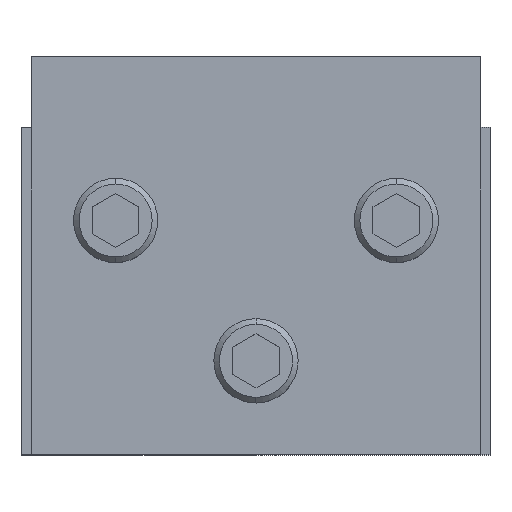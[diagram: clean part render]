
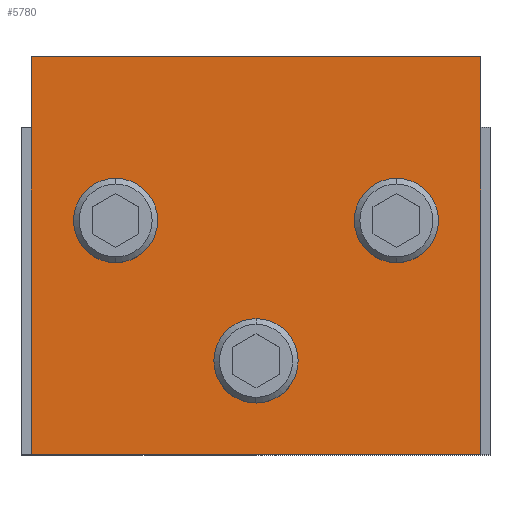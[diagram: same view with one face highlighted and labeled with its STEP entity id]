
A CAD part, top view. The second image highlights one B-rep face of the part: STEP entity #5780.
In plain terms, the highlighted planar face has unit normal (0, 0, 1).
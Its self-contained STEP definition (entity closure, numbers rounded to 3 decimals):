
#5555=VERTEX_POINT(' ',#5556);
#5556=CARTESIAN_POINT('',(48.,85.,90.));
#5557=VERTEX_POINT(' ',#5558);
#5558=CARTESIAN_POINT('',(-48.,85.,90.));
#5559=VERTEX_POINT(' ',#5560);
#5560=CARTESIAN_POINT('',(-48.,0.,90.));
#5561=VERTEX_POINT(' ',#5562);
#5562=CARTESIAN_POINT('',(48.,0.,90.));
#5563=VERTEX_POINT(' ',#5564);
#5564=CARTESIAN_POINT('',(0.,26.5,90.));
#5565=VERTEX_POINT(' ',#5566);
#5566=CARTESIAN_POINT('',(0.,13.5,90.));
#5567=VERTEX_POINT(' ',#5568);
#5568=CARTESIAN_POINT('',(-30.,56.5,90.));
#5569=VERTEX_POINT(' ',#5570);
#5570=CARTESIAN_POINT('',(-30.,43.5,90.));
#5571=VERTEX_POINT(' ',#5572);
#5572=CARTESIAN_POINT('',(30.,56.5,90.));
#5573=VERTEX_POINT(' ',#5574);
#5574=CARTESIAN_POINT('',(30.,43.5,90.));
#5595=LINE('',#5596,#5597);
#5596=CARTESIAN_POINT('',(48.,85.,90.));
#5597=VECTOR('',#5598,1.);
#5598=DIRECTION('',(-1.,0.,0.));
#5599=EDGE_CURVE(' ',#5555,#5557,#5595,.T.);
#5600=LINE('',#5601,#5602);
#5601=CARTESIAN_POINT('',(-48.,85.,90.));
#5602=VECTOR('',#5603,1.);
#5603=DIRECTION('',(0.,-1.,0.));
#5604=EDGE_CURVE(' ',#5557,#5559,#5600,.T.);
#5605=LINE('',#5606,#5607);
#5606=CARTESIAN_POINT('',(-48.,0.,90.));
#5607=VECTOR('',#5608,1.);
#5608=DIRECTION('',(1.,0.,0.));
#5609=EDGE_CURVE(' ',#5559,#5561,#5605,.T.);
#5610=LINE('',#5611,#5612);
#5611=CARTESIAN_POINT('',(48.,0.,90.));
#5612=VECTOR('',#5613,1.);
#5613=DIRECTION('',(0.,1.,0.));
#5614=EDGE_CURVE(' ',#5561,#5555,#5610,.T.);
#5615=CIRCLE('',#5616,6.5);
#5616=AXIS2_PLACEMENT_3D('',#5617,#5618,#5619);
#5617=CARTESIAN_POINT('',(0.,20.,90.));
#5618=DIRECTION('',(0.,0.,-1.));
#5619=DIRECTION('',(-1.,0.,0.));
#5620=EDGE_CURVE(' ',#5563,#5565,#5615,.T.);
#5621=CIRCLE('',#5622,6.5);
#5622=AXIS2_PLACEMENT_3D('',#5623,#5624,#5625);
#5623=CARTESIAN_POINT('',(0.,20.,90.));
#5624=DIRECTION('',(0.,0.,-1.));
#5625=DIRECTION('',(1.,0.,0.));
#5626=EDGE_CURVE(' ',#5565,#5563,#5621,.T.);
#5627=CIRCLE('',#5628,6.5);
#5628=AXIS2_PLACEMENT_3D('',#5629,#5630,#5631);
#5629=CARTESIAN_POINT('',(-30.,50.,90.));
#5630=DIRECTION('',(0.,0.,-1.));
#5631=DIRECTION('',(-1.,0.,0.));
#5632=EDGE_CURVE(' ',#5567,#5569,#5627,.T.);
#5633=CIRCLE('',#5634,6.5);
#5634=AXIS2_PLACEMENT_3D('',#5635,#5636,#5637);
#5635=CARTESIAN_POINT('',(-30.,50.,90.));
#5636=DIRECTION('',(0.,0.,-1.));
#5637=DIRECTION('',(1.,0.,0.));
#5638=EDGE_CURVE(' ',#5569,#5567,#5633,.T.);
#5639=CIRCLE('',#5640,6.5);
#5640=AXIS2_PLACEMENT_3D('',#5641,#5642,#5643);
#5641=CARTESIAN_POINT('',(30.,50.,90.));
#5642=DIRECTION('',(0.,0.,-1.));
#5643=DIRECTION('',(-1.,0.,0.));
#5644=EDGE_CURVE(' ',#5571,#5573,#5639,.T.);
#5645=CIRCLE('',#5646,6.5);
#5646=AXIS2_PLACEMENT_3D('',#5647,#5648,#5649);
#5647=CARTESIAN_POINT('',(30.,50.,90.));
#5648=DIRECTION('',(0.,0.,-1.));
#5649=DIRECTION('',(1.,0.,0.));
#5650=EDGE_CURVE(' ',#5573,#5571,#5645,.T.);
#5757=ORIENTED_EDGE('',*,*,#5599,.T.);
#5758=ORIENTED_EDGE('',*,*,#5604,.T.);
#5759=ORIENTED_EDGE('',*,*,#5609,.T.);
#5760=ORIENTED_EDGE('',*,*,#5614,.T.);
#5761=EDGE_LOOP('',(#5757,#5758,#5759,#5760));
#5762=FACE_OUTER_BOUND('',#5761,.T.);
#5763=ORIENTED_EDGE('',*,*,#5620,.T.);
#5764=ORIENTED_EDGE('',*,*,#5626,.T.);
#5765=EDGE_LOOP('',(#5763,#5764));
#5766=FACE_BOUND('',#5765,.T.);
#5767=ORIENTED_EDGE('',*,*,#5632,.T.);
#5768=ORIENTED_EDGE('',*,*,#5638,.T.);
#5769=EDGE_LOOP('',(#5767,#5768));
#5770=FACE_BOUND('',#5769,.T.);
#5771=ORIENTED_EDGE('',*,*,#5644,.T.);
#5772=ORIENTED_EDGE('',*,*,#5650,.T.);
#5773=EDGE_LOOP('',(#5771,#5772));
#5774=FACE_BOUND('',#5773,.T.);
#5775=PLANE('',#5776);
#5776=AXIS2_PLACEMENT_3D('',#5777,#5778,#5779);
#5777=CARTESIAN_POINT('',(48.,85.,90.));
#5778=DIRECTION('',(0.,0.,1.));
#5779=DIRECTION('',(1.,0.,0.));
#5780=ADVANCED_FACE('',(#5762,#5766,#5770,#5774),#5775,.T.);
